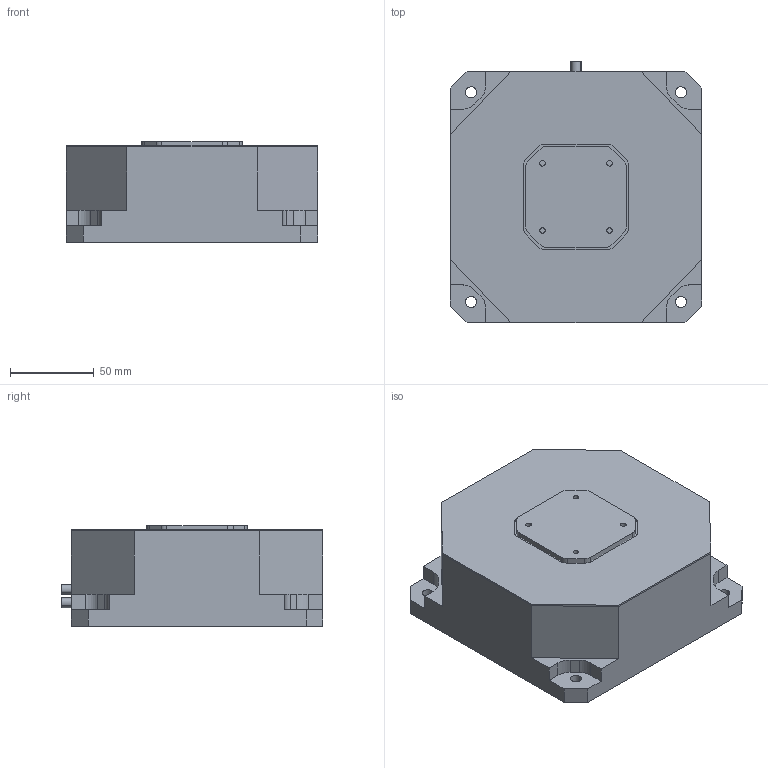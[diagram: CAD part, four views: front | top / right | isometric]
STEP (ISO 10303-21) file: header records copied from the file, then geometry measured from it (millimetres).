
FILE_DESCRIPTION (( 'STEP AP203' ), '1' );
FILE_NAME ('24143外形图-24.09.05更新A.STEP', '2024-09-05T00:40:34', ( '微软用户' ), ( '微软中国' ), 'SwSTEP 2.0', 'SolidWorks 2016', '' );
FILE_SCHEMA (( 'CONFIG_CONTROL_DESIGN' ));
Length unit declared in the file: millimetre
Products named in the file (1): 24143俋倛芞-24.09.05載陔A
Bounding box: 150 x 156 x 60 mm (x, y, z)
Volume: 1201812 mm3; surface area: 117688.6 mm2
Topology: 5 solids, 5 shells, 122 faces, 328 edges, 212 vertices
Faces by surface type: plane 66, cylinder 48, cone 8
Entity records: 3865 total; most frequent: DIRECTION 662, CARTESIAN_POINT 655, ORIENTED_EDGE 640, EDGE_CURVE 320, VECTOR 224, LINE 224, AXIS2_PLACEMENT_3D 219, VERTEX_POINT 212
